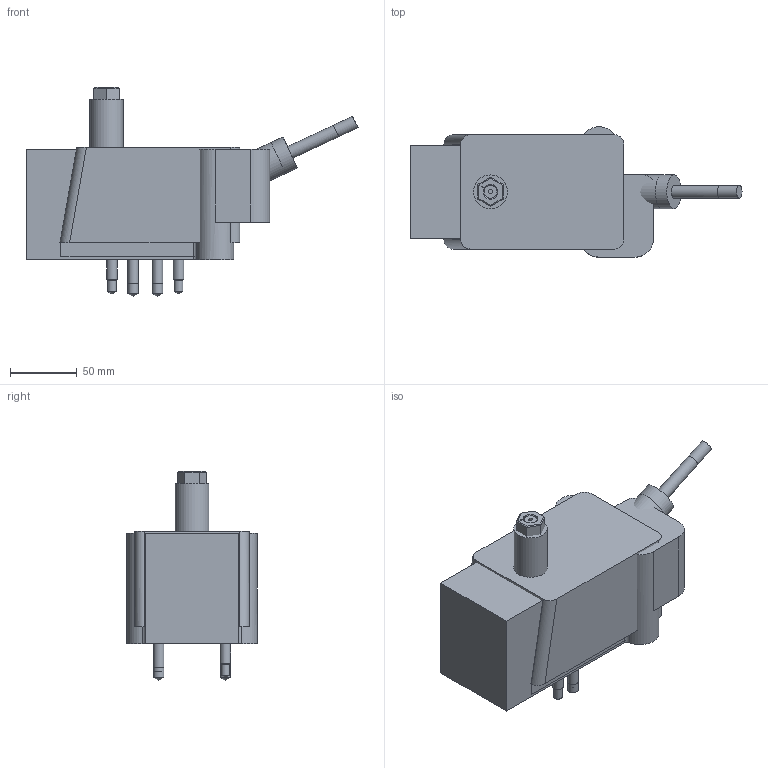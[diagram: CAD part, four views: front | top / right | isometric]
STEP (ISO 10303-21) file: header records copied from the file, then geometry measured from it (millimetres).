
FILE_DESCRIPTION(('STEP AP214'),'1');
FILE_NAME('0011_EZ-25-S-L_201209.stp','2020-12-14T12:27:12',(' '),(' '),'Spatial InterOp 3D',' ',' ');
FILE_SCHEMA(('AUTOMOTIVE_DESIGN { 1 0 10303 214 1 1 1 1 }'));
Length unit declared in the file: metre
Products named in the file (22): 1583513726; 1582908874; 1582908804; 1562099358; 1562100740; 1583159039; 1607692293; 1580702757; 1580702734; 1580688822; 1580691960; 1580700033; 1580688335; 1580688599; 1580688640; 1580689014; 1580689030; 1580689046; 1580689062; 1580689236; 1580689244; 1
Bounding box: 248.96 x 97.75 x 156.95 mm (x, y, z)
Volume: 2572725.7 mm3; surface area: 240856.7 mm2
Topology: 21 solids, 21 shells, 320 faces, 715 edges, 458 vertices
Faces by surface type: plane 172, cylinder 81, cone 51, torus 9, bspline 4, sphere 3
Full cylindrical faces by diameter (mm): 2.8 x1, 3.175 x2, 3.797 x1, 4.089 x1, 4.8 x1, 4.826 x3, 4.917 x1, 5 x1, 5.159 x1, 6 x1, 6.35 x1, 6.528 x2, 7.938 x11, 8.433 x1, 8.5 x2, 8.731 x1, 9.5 x1, 9.525 x4, 11.906 x2, 12.7 x4, 14.25 x2, 15.875 x1, 25.146 x1, 25.4 x1, 25.527 x1, 26.746 x2, 27 x2, 50.292 x1, 50.8 x1
Entity records: 21937 total; most frequent: CARTESIAN_POINT 12096, DIRECTION 1427, ORIENTED_EDGE 1138, EDGE_CURVE 569, AXIS2_PLACEMENT_3D 564, EDGE_LOOP 464, VERTEX_POINT 421, STYLED_ITEM 400
